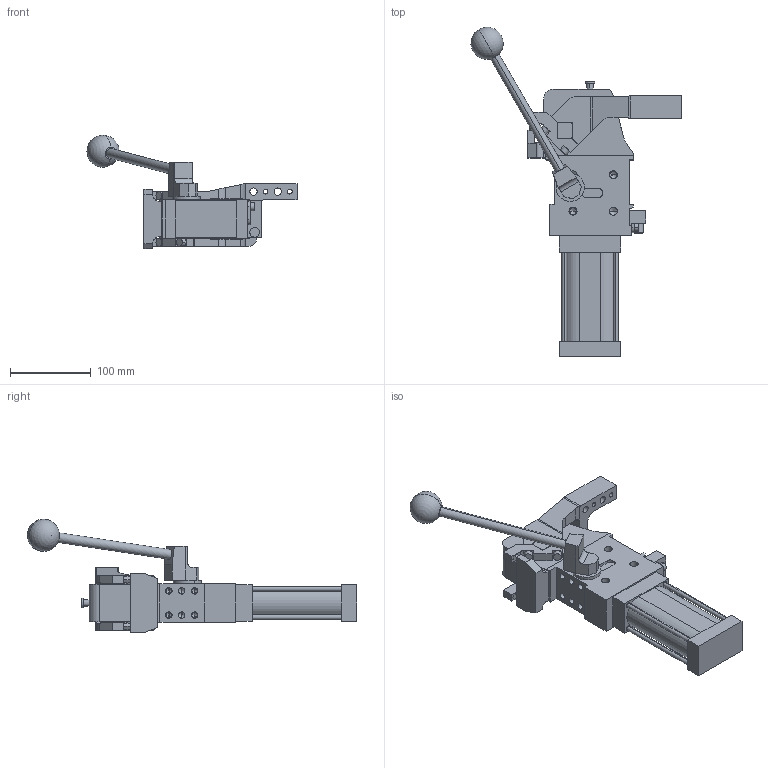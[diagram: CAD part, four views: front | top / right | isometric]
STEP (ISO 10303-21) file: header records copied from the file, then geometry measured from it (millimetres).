
FILE_DESCRIPTION (( 'STEP AP214' ), '1' );
FILE_NAME ('cplm50latv1ssi1g_16.STEP', '2023-01-26T13:26:58', ( '' ), ( '' ), 'SwSTEP 2.0', 'SolidWorks 2022', '' );
FILE_SCHEMA (( 'AUTOMOTIVE_DESIGN' ));
Length unit declared in the file: millimetre
Products named in the file (5): leva_v1ss_cpl50t; comando_manuale_cplm_50; meccanica_cplm_50_tassello_esterno; blocchetto_VEP_0; cplm50latv1ssi1g_16
Assembly tree (4 placements, depth 2):
  cplm50latv1ssi1g_16
    meccanica_cplm_50_tassello_esterno
    blocchetto_VEP_0
    leva_v1ss_cpl50t
    comando_manuale_cplm_50
Bounding box: 260.57 x 408.56 x 141 mm (x, y, z)
Volume: 1510268.7 mm3; surface area: 190869.6 mm2
Topology: 4 solids, 4 shells, 468 faces, 1213 edges, 761 vertices
Faces by surface type: plane 243, cylinder 173, cone 50, sphere 2
Entity records: 15558 total; most frequent: CARTESIAN_POINT 2483, DIRECTION 2468, ORIENTED_EDGE 2324, EDGE_CURVE 1162, AXIS2_PLACEMENT_3D 841, LINE 786, VECTOR 786, VERTEX_POINT 758
